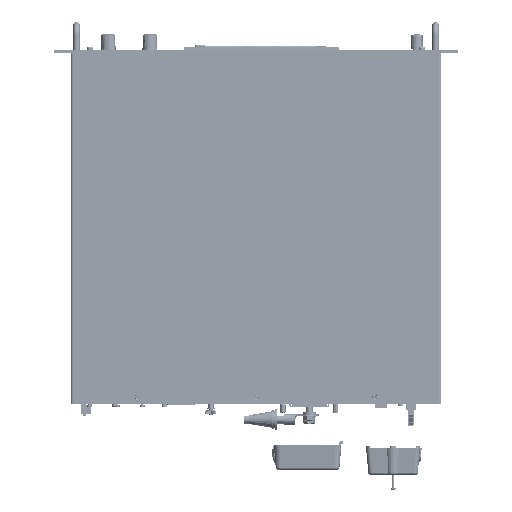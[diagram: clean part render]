
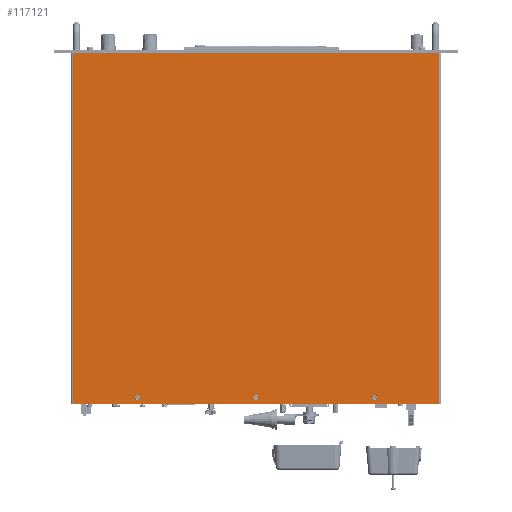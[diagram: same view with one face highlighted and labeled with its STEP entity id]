
A CAD part, top view. The second image highlights one B-rep face of the part: STEP entity #117121.
In plain terms, the highlighted planar face has unit normal (0, 0, 1).
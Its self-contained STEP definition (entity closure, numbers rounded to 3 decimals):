
#7281=LINE($,#181135,#16783);
#10933=LINE($,#198527,#20435);
#10936=LINE($,#198532,#20438);
#10937=LINE($,#198534,#20439);
#10942=LINE($,#198582,#20444);
#10947=LINE($,#198592,#20449);
#10948=LINE($,#198595,#20450);
#10949=LINE($,#198596,#20451);
#16783=VECTOR($,#138881,9.);
#20435=VECTOR($,#151695,2.);
#20438=VECTOR($,#151700,420.);
#20439=VECTOR($,#151703,2.);
#20444=VECTOR($,#151764,438.);
#20449=VECTOR($,#151775,420.);
#20450=VECTOR($,#151778,9.);
#20451=VECTOR($,#151779,420.);
#26252=PLANE($,#126251);
#29588=FACE_BOUND($,#42252,.T.);
#29589=FACE_BOUND($,#42253,.T.);
#29590=FACE_BOUND($,#42254,.T.);
#29591=FACE_BOUND($,#42255,.T.);
#42252=EDGE_LOOP($,(#99904));
#42253=EDGE_LOOP($,(#99905));
#42254=EDGE_LOOP($,(#99906));
#42255=EDGE_LOOP($,(#99907,#99908,#99909,#99910,#99911,#99912,#99913,#99914));
#46665=CIRCLE($,#126221,3.1);
#46666=CIRCLE($,#126223,3.1);
#46667=CIRCLE($,#126225,3.1);
#52027=VERTEX_POINT($,#181132);
#52028=VERTEX_POINT($,#181134);
#56169=VERTEX_POINT($,#198524);
#56170=VERTEX_POINT($,#198526);
#56171=VERTEX_POINT($,#198530);
#56172=VERTEX_POINT($,#198536);
#56173=VERTEX_POINT($,#198539);
#56174=VERTEX_POINT($,#198542);
#56185=VERTEX_POINT($,#198579);
#56186=VERTEX_POINT($,#198581);
#56189=VERTEX_POINT($,#198594);
#64997=EDGE_CURVE($,#52028,#52027,#7281,.T.);
#71459=EDGE_CURVE($,#56170,#56169,#10933,.T.);
#71462=EDGE_CURVE($,#56170,#56171,#10936,.T.);
#71463=EDGE_CURVE($,#52027,#56171,#10937,.T.);
#71464=EDGE_CURVE($,#56172,#56172,#46665,.T.);
#71465=EDGE_CURVE($,#56173,#56173,#46666,.T.);
#71466=EDGE_CURVE($,#56174,#56174,#46667,.T.);
#71480=EDGE_CURVE($,#56185,#56186,#10942,.T.);
#71486=EDGE_CURVE($,#56185,#52028,#10947,.T.);
#71487=EDGE_CURVE($,#56169,#56189,#10948,.T.);
#71488=EDGE_CURVE($,#56189,#56186,#10949,.T.);
#99904=ORIENTED_EDGE($,*,*,#71466,.T.);
#99905=ORIENTED_EDGE($,*,*,#71465,.T.);
#99906=ORIENTED_EDGE($,*,*,#71464,.T.);
#99907=ORIENTED_EDGE($,*,*,#71463,.T.);
#99908=ORIENTED_EDGE($,*,*,#71462,.F.);
#99909=ORIENTED_EDGE($,*,*,#71459,.T.);
#99910=ORIENTED_EDGE($,*,*,#71487,.T.);
#99911=ORIENTED_EDGE($,*,*,#71488,.T.);
#99912=ORIENTED_EDGE($,*,*,#71480,.F.);
#99913=ORIENTED_EDGE($,*,*,#71486,.T.);
#99914=ORIENTED_EDGE($,*,*,#64997,.T.);
#117121=ADVANCED_FACE($,(#29588,#29589,#29590,#29591),#26252,.T.);
#126221=AXIS2_PLACEMENT_3D($,#198537,#151706,#151707);
#126223=AXIS2_PLACEMENT_3D($,#198540,#151710,#151711);
#126225=AXIS2_PLACEMENT_3D($,#198543,#151714,#151715);
#126251=AXIS2_PLACEMENT_3D($,#198593,#151776,#151777);
#138881=DIRECTION($,(-1.,0.,0.));
#151695=DIRECTION($,(0.,-1.,0.));
#151700=DIRECTION($,(1.,0.,0.));
#151703=DIRECTION($,(0.,1.,0.));
#151706=DIRECTION('center_axis',(0.,0.,
-1.));
#151707=DIRECTION('ref_axis',(-1.,0.,0.));
#151710=DIRECTION('center_axis',(0.,0.,
-1.));
#151711=DIRECTION('ref_axis',(-1.,0.,0.));
#151714=DIRECTION('center_axis',(0.,0.,
-1.));
#151715=DIRECTION('ref_axis',(-1.,0.,0.));
#151764=DIRECTION($,(-1.,0.,0.));
#151775=DIRECTION($,(0.,1.,0.));
#151776=DIRECTION('center_axis',(0.,0.,
1.));
#151777=DIRECTION('ref_axis',(-1.,0.,0.));
#151778=DIRECTION($,(-1.,0.,0.));
#151779=DIRECTION($,(0.,-1.,0.));
#181132=CARTESIAN_POINT('',(210.,171.,42.5));
#181134=CARTESIAN_POINT('',(219.,171.,42.5));
#181135=CARTESIAN_POINT($,(105.,171.,42.5));
#198524=CARTESIAN_POINT('',(-210.,171.,42.5));
#198526=CARTESIAN_POINT('',(-210.,173.,42.5));
#198527=CARTESIAN_POINT($,(-210.,66.625,42.5));
#198530=CARTESIAN_POINT('',(210.,173.,42.5));
#198532=CARTESIAN_POINT($,(-221.5,173.,42.5));
#198534=CARTESIAN_POINT($,(210.,67.625,42.5));
#198536=CARTESIAN_POINT('',(138.9,-241.,42.5));
#198537=CARTESIAN_POINT('Origin',(142.,-241.,42.5));
#198539=CARTESIAN_POINT('',(-3.1,-241.,42.5));
#198540=CARTESIAN_POINT('Origin',(0.,-241.,
42.5));
#198542=CARTESIAN_POINT('',(-145.1,-241.,42.5));
#198543=CARTESIAN_POINT('Origin',(-142.,-241.,42.5));
#198579=CARTESIAN_POINT('',(219.,-249.,42.5));
#198581=CARTESIAN_POINT('',(-219.,-249.,42.5));
#198582=CARTESIAN_POINT($,(221.5,-249.,42.5));
#198592=CARTESIAN_POINT($,(219.,-143.125,42.5));
#198593=CARTESIAN_POINT('Origin',(0.,-37.75,
42.5));
#198594=CARTESIAN_POINT('',(-219.,171.,42.5));
#198595=CARTESIAN_POINT($,(-110.75,171.,42.5));
#198596=CARTESIAN_POINT($,(-219.,66.625,42.5));
